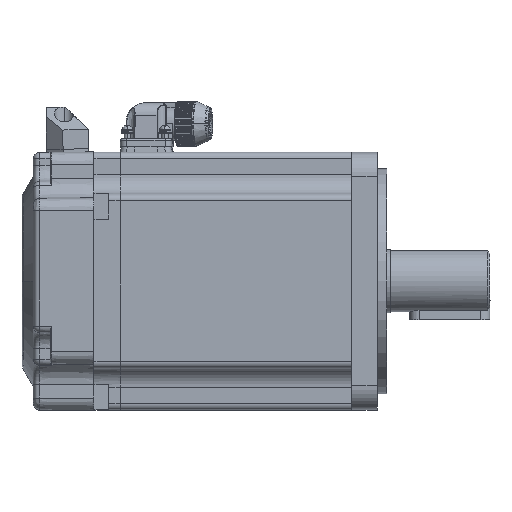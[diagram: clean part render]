
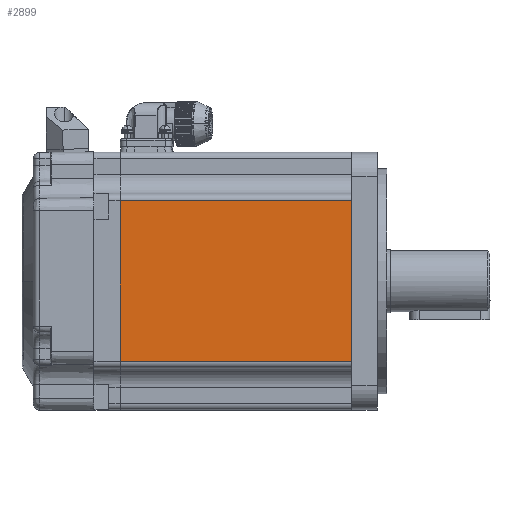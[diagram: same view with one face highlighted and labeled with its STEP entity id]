
A CAD part, top view. The second image highlights one B-rep face of the part: STEP entity #2899.
In plain terms, the highlighted planar face has unit normal (0, 0, 1).
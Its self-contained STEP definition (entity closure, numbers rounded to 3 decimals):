
#2128=DIRECTION('',(0.,1.,0.));
#2129=VECTOR('',#2128,50.);
#2130=CARTESIAN_POINT('',(71.8,-25.,40.));
#2131=LINE('',#2130,#2129);
#2273=DIRECTION('',(1.,0.,0.));
#2274=VECTOR('',#2273,71.8);
#2275=CARTESIAN_POINT('',(0.,-25.,40.));
#2276=LINE('',#2275,#2274);
#2277=DIRECTION('',(0.,1.,0.));
#2278=VECTOR('',#2277,50.);
#2279=CARTESIAN_POINT('',(0.,-25.,40.));
#2280=LINE('',#2279,#2278);
#2285=DIRECTION('',(-1.,0.,0.));
#2286=VECTOR('',#2285,71.8);
#2287=CARTESIAN_POINT('',(71.8,25.,40.));
#2288=LINE('',#2287,#2286);
#2371=CARTESIAN_POINT('',(0.,25.,40.));
#2372=VERTEX_POINT('',#2371);
#2373=CARTESIAN_POINT('',(0.,-25.,40.));
#2374=VERTEX_POINT('',#2373);
#2459=CARTESIAN_POINT('',(71.8,-25.,40.));
#2460=VERTEX_POINT('',#2459);
#2461=CARTESIAN_POINT('',(71.8,25.,40.));
#2462=VERTEX_POINT('',#2461);
#2887=CARTESIAN_POINT('',(0.,40.,40.));
#2888=DIRECTION('',(0.,0.,1.));
#2889=DIRECTION('',(0.,-1.,0.));
#2890=AXIS2_PLACEMENT_3D('',#2887,#2888,#2889);
#2891=PLANE('',#2890);
#2893=ORIENTED_EDGE('',*,*,#2892,.F.);
#2894=ORIENTED_EDGE('',*,*,#2684,.F.);
#2895=ORIENTED_EDGE('',*,*,#2882,.F.);
#2896=ORIENTED_EDGE('',*,*,#2512,.T.);
#2897=EDGE_LOOP('',(#2893,#2894,#2895,#2896));
#2898=FACE_OUTER_BOUND('',#2897,.F.);
#2512=EDGE_CURVE('',#2374,#2372,#2280,.T.);
#2684=EDGE_CURVE('',#2460,#2462,#2131,.T.);
#2882=EDGE_CURVE('',#2374,#2460,#2276,.T.);
#2892=EDGE_CURVE('',#2462,#2372,#2288,.T.);
#2899=ADVANCED_FACE('',(#2898),#2891,.T.);
